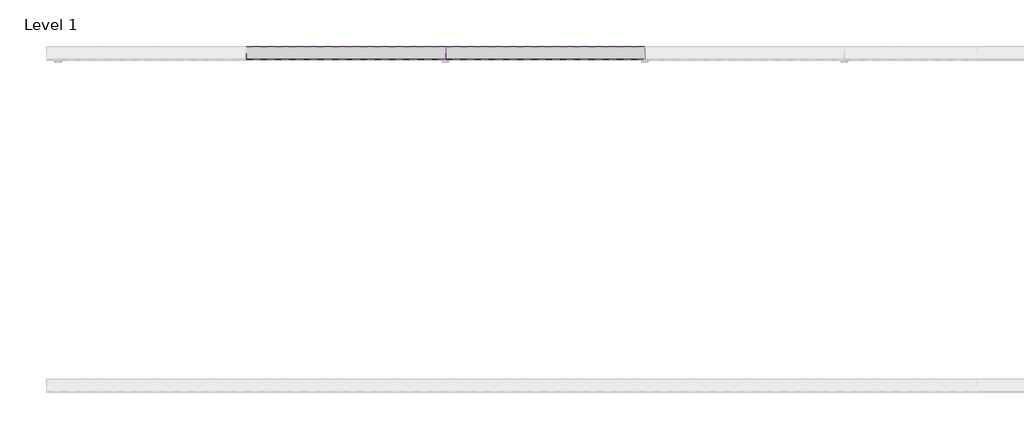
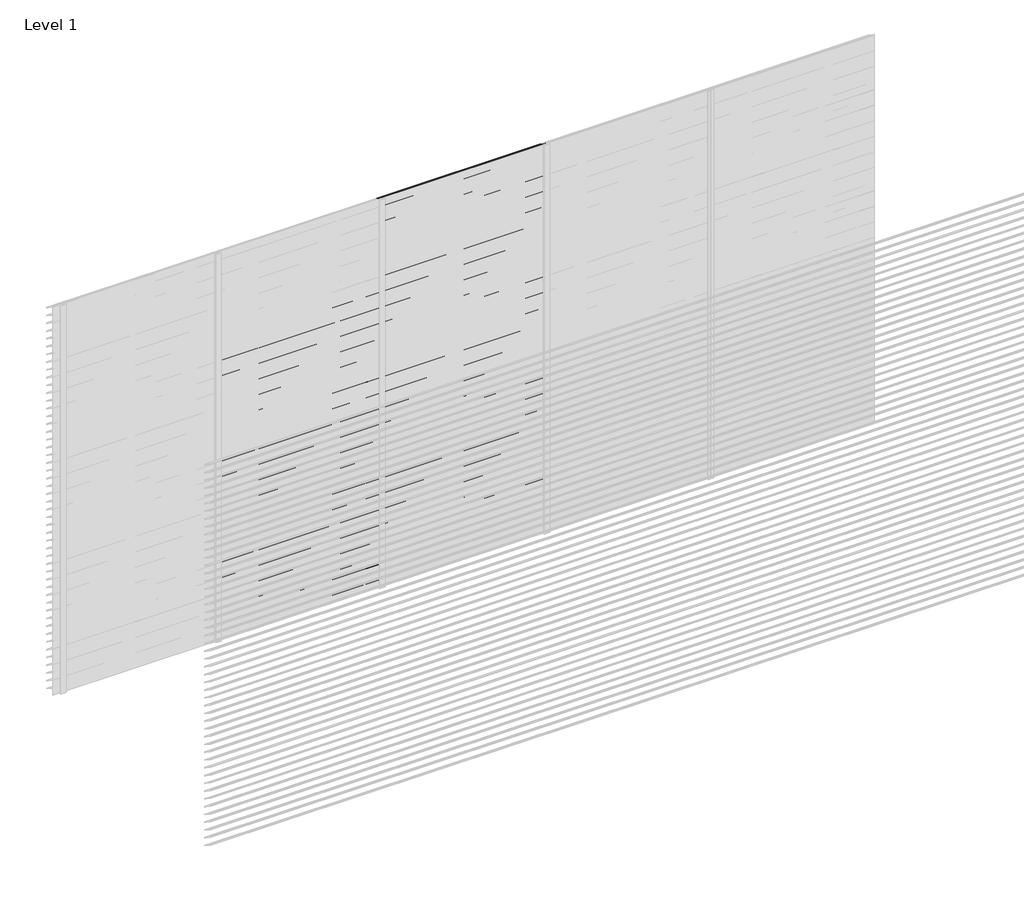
# One storey, part 73 of 153: 84 proxies.
"""IFC4 building model written with IfcOpenShell, lengths in millimetres."""

import ifcopenshell
import ifcopenshell.guid

model = None  # the IFC model being written
_history = None  # IfcOwnerHistory: only IFC2X3 demands one
_inside = {}  # id of a spatial element -> (the spatial element, [elements in it])
_under = {}  # id of a project, library or spatial element -> (it, [spatial elements below it])
_declared = {}  # id of a project -> (the project, [libraries it declares])
_typed = {}  # id of a type object -> (the type object, [elements of that type])
_made_of = {}  # id of a material, layer set ... -> (it, [elements and type objects made of it])


def new_model(schema):
    """Start an empty IFC model of exactly this schema.

    Asked for "IFC4X3", IfcOpenShell would pick the latest addendum, in which some entities
    have other attributes; the version numbers below select the first issue.
    IFC2X3 requires an IfcOwnerHistory on every rooted entity: one is made here for all.
    """
    global model, _history
    if schema == "IFC4X3":
        model = ifcopenshell.file(schema_version=(4, 3, 0, 0))
    else:
        model = ifcopenshell.file(schema=schema)
    _inside.clear()
    _under.clear()
    _declared.clear()
    _typed.clear()
    _made_of.clear()
    _history = None
    if model.schema == "IFC2X3":
        org = make("IfcOrganization", Name="unknown")
        user = make(
            "IfcPersonAndOrganization",
            ThePerson=make("IfcPerson", FamilyName="unknown"),
            TheOrganization=org,
        )
        app = make(
            "IfcApplication",
            ApplicationDeveloper=org,
            Version="unknown",
            ApplicationFullName="unknown",
            ApplicationIdentifier="unknown",
        )
        _history = make(
            "IfcOwnerHistory",
            OwningUser=user,
            OwningApplication=app,
            ChangeAction="ADDED",
            CreationDate=0,
        )
    return model


def make(cls, **values):
    """One entity of the class cls with the attributes given. An attribute that is None is left unset."""
    return model.create_entity(
        cls, **{name: value for name, value in values.items() if value is not None}
    )


def rooted(cls, **values):
    """An entity with a GlobalId (a new one), such as an element, a storey or a relation."""
    return make(cls, GlobalId=ifcopenshell.guid.new(), OwnerHistory=_history, **values)


def si_unit(unit_type, name, prefix=None):
    """IfcSIUnit, for example si_unit("LENGTHUNIT", "METRE", prefix="MILLI")."""
    return make("IfcSIUnit", UnitType=unit_type, Prefix=prefix, Name=name)


def assignment(units):
    """IfcUnitAssignment: the units of a project."""
    return None if units is None else make("IfcUnitAssignment", Units=units)


def point(xyz):
    """IfcCartesianPoint."""
    return None if xyz is None else make("IfcCartesianPoint", Coordinates=xyz)


def direction(xyz):
    """IfcDirection."""
    return None if xyz is None else make("IfcDirection", DirectionRatios=xyz)


def frame(location, z_axis=None, x_axis=None):
    """IfcAxis2Placement3D, a coordinate frame: its origin and axes. An axis left out is left unset."""
    return make(
        "IfcAxis2Placement3D",
        Location=point(location),
        Axis=direction(z_axis),
        RefDirection=direction(x_axis),
    )


def origin():
    """The frame at (0, 0, 0) with its axes left unset."""
    return frame((0.0, 0.0, 0.0))


def place(relative_to, where):
    """IfcLocalPlacement: puts the frame where relative to a parent placement (None: the world)."""
    return make(
        "IfcLocalPlacement", PlacementRelTo=relative_to, RelativePlacement=where
    )


def context(
    kind, dimensions, precision=None, world=None, true_north=None, identifier=None
):
    """IfcGeometricRepresentationContext, for example the 3D "Model" context."""
    return make(
        "IfcGeometricRepresentationContext",
        ContextIdentifier=identifier,
        ContextType=kind,
        CoordinateSpaceDimension=dimensions,
        Precision=precision,
        WorldCoordinateSystem=world,
        TrueNorth=true_north,
    )


def project(units=None, contexts=None):
    """IfcProject with its units and contexts."""
    return rooted(
        "IfcProject",
        Name="project",
        RepresentationContexts=contexts,
        UnitsInContext=assignment(units),
    )


def spatial(cls, under=None, at=None, **own):
    """A site, building, storey or space (cls), placed at a placement, below another one or the project."""
    s = rooted(cls, ObjectPlacement=at, **own)
    if under is not None:
        _under.setdefault(under.id(), (under, []))[1].append(s)
    return s


def polyline(points):
    """IfcPolyline through the points."""
    return make("IfcPolyline", Points=[point(p) for p in points])


def outline(outer, holes=None, kind="AREA"):
    """IfcArbitraryClosedProfileDef: a profile drawn as a closed curve; with holes, ...WithVoids."""
    if holes is None:
        return make("IfcArbitraryClosedProfileDef", ProfileType=kind, OuterCurve=outer)
    return make(
        "IfcArbitraryProfileDefWithVoids",
        ProfileType=kind,
        OuterCurve=outer,
        InnerCurves=holes,
    )


def extrude(swept, where, along, depth):
    """IfcExtrudedAreaSolid: the profile swept, set in the frame where, extruded along a direction by depth."""
    return make(
        "IfcExtrudedAreaSolid",
        SweptArea=swept,
        Position=where,
        ExtrudedDirection=direction(along),
        Depth=depth,
    )


def shape(context_of_items, identifier, shape_type, items):
    """IfcShapeRepresentation: the items that make up one representation, for example the "Body"."""
    return make(
        "IfcShapeRepresentation",
        ContextOfItems=context_of_items,
        RepresentationIdentifier=identifier,
        RepresentationType=shape_type,
        Items=items,
    )


def made_of(thing, what):
    """Note that an element or type object is made of a material, layer set ...; save() writes the relation."""
    if what is not None:
        _made_of.setdefault(what.id(), (what, []))[1].append(thing)
    return thing


def element(
    cls,
    number,
    at=None,
    inside=None,
    cuts=None,
    type_object=None,
    material=None,
    context=None,
    identifier="Body",
    shape_type=None,
    held_by="IfcProductDefinitionShape",
    body=None,
    shapes=None,
    **own,
):
    """One element of the class cls, such as IfcWall. Its Tag is "e" and its number.

    at: its placement. inside: the storey or other place that contains it. cuts: it is an
    opening in that element (IfcRelVoidsElement). A single representation is given by context,
    identifier, shape_type and body (its items); several are given by shapes. held_by: the class
    of the entity that holds the representations. save() writes the other relations.
    """
    e = rooted(cls, Tag="e%d" % number, ObjectPlacement=at, **own)
    if body is not None:
        shapes = [shape(context, identifier, shape_type, body)]
    if shapes is not None:
        e.Representation = make(held_by, Representations=shapes)
    if inside is not None:
        _inside.setdefault(inside.id(), (inside, []))[1].append(e)
    if cuts is not None:
        rooted(
            "IfcRelVoidsElement", RelatingBuildingElement=cuts, RelatedOpeningElement=e
        )
    if type_object is not None:
        _typed.setdefault(type_object.id(), (type_object, []))[1].append(e)
    return made_of(e, material)


def aggregate(whole, parts):
    """IfcRelAggregates: a whole, such as a stair, and the parts it consists of."""
    return rooted("IfcRelAggregates", RelatingObject=whole, RelatedObjects=parts)


def save(model, path):
    """Write the relations noted so far, then the file.

    IfcRelAggregates (storeys below a building ...), IfcRelContainedInSpatialStructure (elements
    in a storey), IfcRelDefinesByType, IfcRelAssociatesMaterial and IfcRelDeclares: one each for
    every whole, place, type object, material and project.
    """
    for whole, parts in _under.values():
        aggregate(whole, parts)
    for where, things in _inside.values():
        rooted(
            "IfcRelContainedInSpatialStructure",
            RelatedElements=things,
            RelatingStructure=where,
        )
    for kind, things in _typed.values():
        rooted("IfcRelDefinesByType", RelatedObjects=things, RelatingType=kind)
    for what, things in _made_of.values():
        rooted("IfcRelAssociatesMaterial", RelatedObjects=things, RelatingMaterial=what)
    for by, libraries in _declared.values():
        rooted("IfcRelDeclares", RelatingContext=by, RelatedDefinitions=libraries)
    model.write(path)


model = new_model("IFC4")

# Units and contexts
model_context = context("Model", 3, world=origin())
ifc_project = project(units=[si_unit("LENGTHUNIT", "METRE", prefix="MILLI")], contexts=[model_context])

# Site, building, storey
site = spatial("IfcSite", under=ifc_project)
building = spatial("IfcBuilding", under=site)
storey = spatial("IfcBuildingStorey", under=building, Name="Level 1", Elevation=0.0)

# Proxies
placement = place(None, origin())
element("IfcBuildingElementProxy", 1, Name="Wall Sweeps", at=placement, inside=storey, context=model_context, shape_type="SweptSolid", body=[
    extrude(outline(polyline([(44061.0540136, 2286.0), (44061.0540136, 2280.0), (44059.8040136, 2280.7216933), (44059.8040136, 2285.2538091), (43983.0540136, 2333.9915103), (43983.0540136, 2340.0), (43984.3040136, 2340.0), (43984.3040136, 2334.7377012), (44061.0540136, 2286.0)])), frame((1666.6208099, 0.0, 0.0), z_axis=(1.0, 0.0, 0.0), x_axis=(0.0, 1.0, 0.0)), (0.0, 0.0, 1.0), 1199.9999999),
])
element("IfcBuildingElementProxy", 2, Name="Wall Sweeps", at=placement, inside=storey, context=model_context, shape_type="SweptSolid", body=[
    extrude(outline(polyline([(44061.0540136, 2226.0), (44061.0540136, 2220.0), (44059.8040136, 2220.7216933), (44059.8040136, 2225.2538091), (43983.0540136, 2273.9915103), (43983.0540136, 2280.0), (43984.3040136, 2280.0), (43984.3040136, 2274.7377012), (44061.0540136, 2226.0)])), frame((1666.6208099, 0.0, 0.0), z_axis=(1.0, 0.0, 0.0), x_axis=(0.0, 1.0, 0.0)), (0.0, 0.0, 1.0), 1199.9999999),
])
element("IfcBuildingElementProxy", 3, Name="Wall Sweeps", at=placement, inside=storey, context=model_context, shape_type="SweptSolid", body=[
    extrude(outline(polyline([(44061.0540136, 2166.0), (44061.0540136, 2160.0), (44059.8040136, 2160.7216933), (44059.8040136, 2165.2538091), (43983.0540136, 2213.9915103), (43983.0540136, 2220.0), (43984.3040136, 2220.0), (43984.3040136, 2214.7377012), (44061.0540136, 2166.0)])), frame((1666.6208099, 0.0, 0.0), z_axis=(1.0, 0.0, 0.0), x_axis=(0.0, 1.0, 0.0)), (0.0, 0.0, 1.0), 1199.9999999),
])
element("IfcBuildingElementProxy", 4, Name="Wall Sweeps", at=placement, inside=storey, context=model_context, shape_type="SweptSolid", body=[
    extrude(outline(polyline([(44061.0540136, 2106.0), (44061.0540136, 2100.0), (44059.8040136, 2100.7216933), (44059.8040136, 2105.2538091), (43983.0540136, 2153.9915103), (43983.0540136, 2160.0), (43984.3040136, 2160.0), (43984.3040136, 2154.7377012), (44061.0540136, 2106.0)])), frame((1666.6208099, 0.0, 0.0), z_axis=(1.0, 0.0, 0.0), x_axis=(0.0, 1.0, 0.0)), (0.0, 0.0, 1.0), 1199.9999999),
])
element("IfcBuildingElementProxy", 5, Name="Wall Sweeps", at=placement, inside=storey, context=model_context, shape_type="SweptSolid", body=[
    extrude(outline(polyline([(44061.0540136, 2046.0), (44061.0540136, 2040.0), (44059.8040136, 2040.7216933), (44059.8040136, 2045.2538091), (43983.0540136, 2093.9915103), (43983.0540136, 2100.0), (43984.3040136, 2100.0), (43984.3040136, 2094.7377012), (44061.0540136, 2046.0)])), frame((1666.6208099, 0.0, 0.0), z_axis=(1.0, 0.0, 0.0), x_axis=(0.0, 1.0, 0.0)), (0.0, 0.0, 1.0), 1199.9999999),
])
element("IfcBuildingElementProxy", 6, Name="Wall Sweeps", at=placement, inside=storey, context=model_context, shape_type="SweptSolid", body=[
    extrude(outline(polyline([(44061.0540136, 1986.0), (44061.0540136, 1980.0), (44059.8040136, 1980.7216933), (44059.8040136, 1985.2538091), (43983.0540136, 2033.9915103), (43983.0540136, 2040.0), (43984.3040136, 2040.0), (43984.3040136, 2034.7377012), (44061.0540136, 1986.0)])), frame((1666.6208099, 0.0, 0.0), z_axis=(1.0, 0.0, 0.0), x_axis=(0.0, 1.0, 0.0)), (0.0, 0.0, 1.0), 1199.9999999),
])
element("IfcBuildingElementProxy", 7, Name="Wall Sweeps", at=placement, inside=storey, context=model_context, shape_type="SweptSolid", body=[
    extrude(outline(polyline([(44061.0540136, 1926.0), (44061.0540136, 1920.0), (44059.8040136, 1920.7216933), (44059.8040136, 1925.2538091), (43983.0540136, 1973.9915103), (43983.0540136, 1980.0), (43984.3040136, 1980.0), (43984.3040136, 1974.7377012), (44061.0540136, 1926.0)])), frame((1666.6208099, 0.0, 0.0), z_axis=(1.0, 0.0, 0.0), x_axis=(0.0, 1.0, 0.0)), (0.0, 0.0, 1.0), 1199.9999999),
])
element("IfcBuildingElementProxy", 8, Name="Wall Sweeps", at=placement, inside=storey, context=model_context, shape_type="SweptSolid", body=[
    extrude(outline(polyline([(44061.0540136, 1866.0), (44061.0540136, 1860.0), (44059.8040136, 1860.7216933), (44059.8040136, 1865.2538091), (43983.0540136, 1913.9915103), (43983.0540136, 1920.0), (43984.3040136, 1920.0), (43984.3040136, 1914.7377012), (44061.0540136, 1866.0)])), frame((1666.6208099, 0.0, 0.0), z_axis=(1.0, 0.0, 0.0), x_axis=(0.0, 1.0, 0.0)), (0.0, 0.0, 1.0), 1199.9999999),
])
element("IfcBuildingElementProxy", 9, Name="Wall Sweeps", at=placement, inside=storey, context=model_context, shape_type="SweptSolid", body=[
    extrude(outline(polyline([(44061.0540136, 1806.0), (44061.0540136, 1800.0), (44059.8040136, 1800.7216933), (44059.8040136, 1805.2538091), (43983.0540136, 1853.9915103), (43983.0540136, 1860.0), (43984.3040136, 1860.0), (43984.3040136, 1854.7377012), (44061.0540136, 1806.0)])), frame((1666.6208099, 0.0, 0.0), z_axis=(1.0, 0.0, 0.0), x_axis=(0.0, 1.0, 0.0)), (0.0, 0.0, 1.0), 1199.9999999),
])
element("IfcBuildingElementProxy", 10, Name="Wall Sweeps", at=placement, inside=storey, context=model_context, shape_type="SweptSolid", body=[
    extrude(outline(polyline([(44061.0540136, 1746.0), (44061.0540136, 1740.0), (44059.8040136, 1740.7216933), (44059.8040136, 1745.2538091), (43983.0540136, 1793.9915103), (43983.0540136, 1800.0), (43984.3040136, 1800.0), (43984.3040136, 1794.7377012), (44061.0540136, 1746.0)])), frame((1666.6208099, 0.0, 0.0), z_axis=(1.0, 0.0, 0.0), x_axis=(0.0, 1.0, 0.0)), (0.0, 0.0, 1.0), 1199.9999999),
])
element("IfcBuildingElementProxy", 11, Name="Wall Sweeps", at=placement, inside=storey, context=model_context, shape_type="SweptSolid", body=[
    extrude(outline(polyline([(44061.0540136, 1686.0), (44061.0540136, 1680.0), (44059.8040136, 1680.7216933), (44059.8040136, 1685.2538091), (43983.0540136, 1733.9915103), (43983.0540136, 1740.0), (43984.3040136, 1740.0), (43984.3040136, 1734.7377012), (44061.0540136, 1686.0)])), frame((1666.6208099, 0.0, 0.0), z_axis=(1.0, 0.0, 0.0), x_axis=(0.0, 1.0, 0.0)), (0.0, 0.0, 1.0), 1199.9999999),
])
element("IfcBuildingElementProxy", 12, Name="Wall Sweeps", at=placement, inside=storey, context=model_context, shape_type="SweptSolid", body=[
    extrude(outline(polyline([(44061.0540136, 1626.0), (44061.0540136, 1620.0), (44059.8040136, 1620.7216933), (44059.8040136, 1625.2538091), (43983.0540136, 1673.9915103), (43983.0540136, 1680.0), (43984.3040136, 1680.0), (43984.3040136, 1674.7377012), (44061.0540136, 1626.0)])), frame((1666.6208099, 0.0, 0.0), z_axis=(1.0, 0.0, 0.0), x_axis=(0.0, 1.0, 0.0)), (0.0, 0.0, 1.0), 1199.9999999),
])
element("IfcBuildingElementProxy", 13, Name="Wall Sweeps", at=placement, inside=storey, context=model_context, shape_type="SweptSolid", body=[
    extrude(outline(polyline([(44061.0540136, 1566.0), (44061.0540136, 1560.0), (44059.8040136, 1560.7216933), (44059.8040136, 1565.2538091), (43983.0540136, 1613.9915103), (43983.0540136, 1620.0), (43984.3040136, 1620.0), (43984.3040136, 1614.7377012), (44061.0540136, 1566.0)])), frame((1666.6208099, 0.0, 0.0), z_axis=(1.0, 0.0, 0.0), x_axis=(0.0, 1.0, 0.0)), (0.0, 0.0, 1.0), 1199.9999999),
])
element("IfcBuildingElementProxy", 14, Name="Wall Sweeps", at=placement, inside=storey, context=model_context, shape_type="SweptSolid", body=[
    extrude(outline(polyline([(44061.0540136, 1506.0), (44061.0540136, 1500.0), (44059.8040136, 1500.7216933), (44059.8040136, 1505.2538091), (43983.0540136, 1553.9915103), (43983.0540136, 1560.0), (43984.3040136, 1560.0), (43984.3040136, 1554.7377012), (44061.0540136, 1506.0)])), frame((1666.6208099, 0.0, 0.0), z_axis=(1.0, 0.0, 0.0), x_axis=(0.0, 1.0, 0.0)), (0.0, 0.0, 1.0), 1199.9999999),
])
element("IfcBuildingElementProxy", 15, Name="Wall Sweeps", at=placement, inside=storey, context=model_context, shape_type="SweptSolid", body=[
    extrude(outline(polyline([(44061.0540136, 1446.0), (44061.0540136, 1440.0), (44059.8040136, 1440.7216933), (44059.8040136, 1445.2538091), (43983.0540136, 1493.9915103), (43983.0540136, 1500.0), (43984.3040136, 1500.0), (43984.3040136, 1494.7377012), (44061.0540136, 1446.0)])), frame((1666.6208099, 0.0, 0.0), z_axis=(1.0, 0.0, 0.0), x_axis=(0.0, 1.0, 0.0)), (0.0, 0.0, 1.0), 1199.9999999),
])
element("IfcBuildingElementProxy", 16, Name="Wall Sweeps", at=placement, inside=storey, context=model_context, shape_type="SweptSolid", body=[
    extrude(outline(polyline([(44061.0540136, 1386.0), (44061.0540136, 1380.0), (44059.8040136, 1380.7216933), (44059.8040136, 1385.2538091), (43983.0540136, 1433.9915103), (43983.0540136, 1440.0), (43984.3040136, 1440.0), (43984.3040136, 1434.7377012), (44061.0540136, 1386.0)])), frame((1666.6208099, 0.0, 0.0), z_axis=(1.0, 0.0, 0.0), x_axis=(0.0, 1.0, 0.0)), (0.0, 0.0, 1.0), 1199.9999999),
])
element("IfcBuildingElementProxy", 17, Name="Wall Sweeps", at=placement, inside=storey, context=model_context, shape_type="SweptSolid", body=[
    extrude(outline(polyline([(44061.0540136, 1326.0), (44061.0540136, 1320.0), (44059.8040136, 1320.7216933), (44059.8040136, 1325.2538091), (43983.0540136, 1373.9915103), (43983.0540136, 1380.0), (43984.3040136, 1380.0), (43984.3040136, 1374.7377012), (44061.0540136, 1326.0)])), frame((1666.6208099, 0.0, 0.0), z_axis=(1.0, 0.0, 0.0), x_axis=(0.0, 1.0, 0.0)), (0.0, 0.0, 1.0), 1199.9999999),
])
element("IfcBuildingElementProxy", 18, Name="Wall Sweeps", at=placement, inside=storey, context=model_context, shape_type="SweptSolid", body=[
    extrude(outline(polyline([(44061.0540136, 1266.0), (44061.0540136, 1260.0), (44059.8040136, 1260.7216933), (44059.8040136, 1265.2538091), (43983.0540136, 1313.9915103), (43983.0540136, 1320.0), (43984.3040136, 1320.0), (43984.3040136, 1314.7377012), (44061.0540136, 1266.0)])), frame((1666.6208099, 0.0, 0.0), z_axis=(1.0, 0.0, 0.0), x_axis=(0.0, 1.0, 0.0)), (0.0, 0.0, 1.0), 1199.9999999),
])
element("IfcBuildingElementProxy", 19, Name="Wall Sweeps", at=placement, inside=storey, context=model_context, shape_type="SweptSolid", body=[
    extrude(outline(polyline([(44061.0540136, 1206.0), (44061.0540136, 1200.0), (44059.8040136, 1200.7216933), (44059.8040136, 1205.2538091), (43983.0540136, 1253.9915103), (43983.0540136, 1260.0), (43984.3040136, 1260.0), (43984.3040136, 1254.7377012), (44061.0540136, 1206.0)])), frame((1666.6208099, 0.0, 0.0), z_axis=(1.0, 0.0, 0.0), x_axis=(0.0, 1.0, 0.0)), (0.0, 0.0, 1.0), 1199.9999999),
])
element("IfcBuildingElementProxy", 20, Name="Wall Sweeps", at=placement, inside=storey, context=model_context, shape_type="SweptSolid", body=[
    extrude(outline(polyline([(44061.0540136, 1146.0), (44061.0540136, 1140.0), (44059.8040136, 1140.7216933), (44059.8040136, 1145.2538091), (43983.0540136, 1193.9915103), (43983.0540136, 1200.0), (43984.3040136, 1200.0), (43984.3040136, 1194.7377012), (44061.0540136, 1146.0)])), frame((1666.6208099, 0.0, 0.0), z_axis=(1.0, 0.0, 0.0), x_axis=(0.0, 1.0, 0.0)), (0.0, 0.0, 1.0), 1199.9999999),
])
element("IfcBuildingElementProxy", 21, Name="Wall Sweeps", at=placement, inside=storey, context=model_context, shape_type="SweptSolid", body=[
    extrude(outline(polyline([(44061.0540136, 1086.0), (44061.0540136, 1080.0), (44059.8040136, 1080.7216933), (44059.8040136, 1085.2538091), (43983.0540136, 1133.9915103), (43983.0540136, 1140.0), (43984.3040136, 1140.0), (43984.3040136, 1134.7377012), (44061.0540136, 1086.0)])), frame((1666.6208099, 0.0, 0.0), z_axis=(1.0, 0.0, 0.0), x_axis=(0.0, 1.0, 0.0)), (0.0, 0.0, 1.0), 1199.9999999),
])
element("IfcBuildingElementProxy", 22, Name="Wall Sweeps", at=placement, inside=storey, context=model_context, shape_type="SweptSolid", body=[
    extrude(outline(polyline([(44061.0540136, 1026.0), (44061.0540136, 1020.0), (44059.8040136, 1020.7216933), (44059.8040136, 1025.2538091), (43983.0540136, 1073.9915103), (43983.0540136, 1080.0), (43984.3040136, 1080.0), (43984.3040136, 1074.7377012), (44061.0540136, 1026.0)])), frame((1666.6208099, 0.0, 0.0), z_axis=(1.0, 0.0, 0.0), x_axis=(0.0, 1.0, 0.0)), (0.0, 0.0, 1.0), 1199.9999999),
])
element("IfcBuildingElementProxy", 23, Name="Wall Sweeps", at=placement, inside=storey, context=model_context, shape_type="SweptSolid", body=[
    extrude(outline(polyline([(44061.0540136, 966.0), (44061.0540136, 960.0), (44059.8040136, 960.7216933), (44059.8040136, 965.2538091), (43983.0540136, 1013.9915103), (43983.0540136, 1020.0), (43984.3040136, 1020.0), (43984.3040136, 1014.7377012), (44061.0540136, 966.0)])), frame((1666.6208099, 0.0, 0.0), z_axis=(1.0, 0.0, 0.0), x_axis=(0.0, 1.0, 0.0)), (0.0, 0.0, 1.0), 1199.9999999),
])
element("IfcBuildingElementProxy", 24, Name="Wall Sweeps", at=placement, inside=storey, context=model_context, shape_type="SweptSolid", body=[
    extrude(outline(polyline([(44061.0540136, 906.0), (44061.0540136, 900.0), (44059.8040136, 900.7216933), (44059.8040136, 905.2538091), (43983.0540136, 953.9915103), (43983.0540136, 960.0), (43984.3040136, 960.0), (43984.3040136, 954.7377012), (44061.0540136, 906.0)])), frame((1666.6208099, 0.0, 0.0), z_axis=(1.0, 0.0, 0.0), x_axis=(0.0, 1.0, 0.0)), (0.0, 0.0, 1.0), 1199.9999999),
])
element("IfcBuildingElementProxy", 25, Name="Wall Sweeps", at=placement, inside=storey, context=model_context, shape_type="SweptSolid", body=[
    extrude(outline(polyline([(44061.0540136, 846.0), (44061.0540136, 840.0), (44059.8040136, 840.7216933), (44059.8040136, 845.2538091), (43983.0540136, 893.9915103), (43983.0540136, 900.0), (43984.3040136, 900.0), (43984.3040136, 894.7377012), (44061.0540136, 846.0)])), frame((1666.6208099, 0.0, 0.0), z_axis=(1.0, 0.0, 0.0), x_axis=(0.0, 1.0, 0.0)), (0.0, 0.0, 1.0), 1199.9999999),
])
element("IfcBuildingElementProxy", 26, Name="Wall Sweeps", at=placement, inside=storey, context=model_context, shape_type="SweptSolid", body=[
    extrude(outline(polyline([(44061.0540136, 786.0), (44061.0540136, 780.0), (44059.8040136, 780.7216933), (44059.8040136, 785.2538091), (43983.0540136, 833.9915103), (43983.0540136, 840.0), (43984.3040136, 840.0), (43984.3040136, 834.7377012), (44061.0540136, 786.0)])), frame((1666.6208099, 0.0, 0.0), z_axis=(1.0, 0.0, 0.0), x_axis=(0.0, 1.0, 0.0)), (0.0, 0.0, 1.0), 1199.9999999),
])
element("IfcBuildingElementProxy", 27, Name="Wall Sweeps", at=placement, inside=storey, context=model_context, shape_type="SweptSolid", body=[
    extrude(outline(polyline([(44061.0540136, 726.0), (44061.0540136, 720.0), (44059.8040136, 720.7216933), (44059.8040136, 725.2538091), (43983.0540136, 773.9915103), (43983.0540136, 780.0), (43984.3040136, 780.0), (43984.3040136, 774.7377012), (44061.0540136, 726.0)])), frame((1666.6208099, 0.0, 0.0), z_axis=(1.0, 0.0, 0.0), x_axis=(0.0, 1.0, 0.0)), (0.0, 0.0, 1.0), 1199.9999999),
])
element("IfcBuildingElementProxy", 28, Name="Wall Sweeps", at=placement, inside=storey, context=model_context, shape_type="SweptSolid", body=[
    extrude(outline(polyline([(44061.0540136, 666.0), (44061.0540136, 660.0), (44059.8040136, 660.7216933), (44059.8040136, 665.2538091), (43983.0540136, 713.9915103), (43983.0540136, 720.0), (43984.3040136, 720.0), (43984.3040136, 714.7377012), (44061.0540136, 666.0)])), frame((1666.6208099, 0.0, 0.0), z_axis=(1.0, 0.0, 0.0), x_axis=(0.0, 1.0, 0.0)), (0.0, 0.0, 1.0), 1199.9999999),
])
element("IfcBuildingElementProxy", 29, Name="Wall Sweeps", at=placement, inside=storey, context=model_context, shape_type="SweptSolid", body=[
    extrude(outline(polyline([(44061.0540136, 606.0), (44061.0540136, 600.0), (44059.8040136, 600.7216933), (44059.8040136, 605.2538091), (43983.0540136, 653.9915103), (43983.0540136, 660.0), (43984.3040136, 660.0), (43984.3040136, 654.7377012), (44061.0540136, 606.0)])), frame((1666.6208099, 0.0, 0.0), z_axis=(1.0, 0.0, 0.0), x_axis=(0.0, 1.0, 0.0)), (0.0, 0.0, 1.0), 1199.9999999),
])
element("IfcBuildingElementProxy", 30, Name="Wall Sweeps", at=placement, inside=storey, context=model_context, shape_type="SweptSolid", body=[
    extrude(outline(polyline([(44061.0540136, 546.0), (44061.0540136, 540.0), (44059.8040136, 540.7216933), (44059.8040136, 545.2538091), (43983.0540136, 593.9915103), (43983.0540136, 600.0), (43984.3040136, 600.0), (43984.3040136, 594.7377012), (44061.0540136, 546.0)])), frame((1666.6208099, 0.0, 0.0), z_axis=(1.0, 0.0, 0.0), x_axis=(0.0, 1.0, 0.0)), (0.0, 0.0, 1.0), 1199.9999999),
])
element("IfcBuildingElementProxy", 31, Name="Wall Sweeps", at=placement, inside=storey, context=model_context, shape_type="SweptSolid", body=[
    extrude(outline(polyline([(44061.0540136, 486.0), (44061.0540136, 480.0), (44059.8040136, 480.7216933), (44059.8040136, 485.2538091), (43983.0540136, 533.9915103), (43983.0540136, 540.0), (43984.3040136, 540.0), (43984.3040136, 534.7377012), (44061.0540136, 486.0)])), frame((1666.6208099, 0.0, 0.0), z_axis=(1.0, 0.0, 0.0), x_axis=(0.0, 1.0, 0.0)), (0.0, 0.0, 1.0), 1199.9999999),
])
element("IfcBuildingElementProxy", 32, Name="Wall Sweeps", at=placement, inside=storey, context=model_context, shape_type="SweptSolid", body=[
    extrude(outline(polyline([(44061.0540136, 426.0), (44061.0540136, 420.0), (44059.8040136, 420.7216933), (44059.8040136, 425.2538091), (43983.0540136, 473.9915103), (43983.0540136, 480.0), (43984.3040136, 480.0), (43984.3040136, 474.7377012), (44061.0540136, 426.0)])), frame((1666.6208099, 0.0, 0.0), z_axis=(1.0, 0.0, 0.0), x_axis=(0.0, 1.0, 0.0)), (0.0, 0.0, 1.0), 1199.9999999),
])
element("IfcBuildingElementProxy", 33, Name="Wall Sweeps", at=placement, inside=storey, context=model_context, shape_type="SweptSolid", body=[
    extrude(outline(polyline([(44061.0540136, 366.0), (44061.0540136, 360.0), (44059.8040136, 360.7216933), (44059.8040136, 365.2538091), (43983.0540136, 413.9915103), (43983.0540136, 420.0), (43984.3040136, 420.0), (43984.3040136, 414.7377012), (44061.0540136, 366.0)])), frame((1666.6208099, 0.0, 0.0), z_axis=(1.0, 0.0, 0.0), x_axis=(0.0, 1.0, 0.0)), (0.0, 0.0, 1.0), 1199.9999999),
])
element("IfcBuildingElementProxy", 34, Name="Wall Sweeps", at=placement, inside=storey, context=model_context, shape_type="SweptSolid", body=[
    extrude(outline(polyline([(44061.0540136, 306.0), (44061.0540136, 300.0), (44059.8040136, 300.7216933), (44059.8040136, 305.2538091), (43983.0540136, 353.9915103), (43983.0540136, 360.0), (43984.3040136, 360.0), (43984.3040136, 354.7377012), (44061.0540136, 306.0)])), frame((1666.6208099, 0.0, 0.0), z_axis=(1.0, 0.0, 0.0), x_axis=(0.0, 1.0, 0.0)), (0.0, 0.0, 1.0), 1199.9999999),
])
element("IfcBuildingElementProxy", 35, Name="Wall Sweeps", at=placement, inside=storey, context=model_context, shape_type="SweptSolid", body=[
    extrude(outline(polyline([(44061.0540136, 246.0), (44061.0540136, 240.0), (44059.8040136, 240.7216933), (44059.8040136, 245.2538091), (43983.0540136, 293.9915103), (43983.0540136, 300.0), (43984.3040136, 300.0), (43984.3040136, 294.7377012), (44061.0540136, 246.0)])), frame((1666.6208099, 0.0, 0.0), z_axis=(1.0, 0.0, 0.0), x_axis=(0.0, 1.0, 0.0)), (0.0, 0.0, 1.0), 1199.9999999),
])
element("IfcBuildingElementProxy", 36, Name="Wall Sweeps", at=placement, inside=storey, context=model_context, shape_type="SweptSolid", body=[
    extrude(outline(polyline([(44061.0540136, 186.0), (44061.0540136, 180.0), (44059.8040136, 180.7216933), (44059.8040136, 185.2538091), (43983.0540136, 233.9915103), (43983.0540136, 240.0), (43984.3040136, 240.0), (43984.3040136, 234.7377012), (44061.0540136, 186.0)])), frame((1666.6208099, 0.0, 0.0), z_axis=(1.0, 0.0, 0.0), x_axis=(0.0, 1.0, 0.0)), (0.0, 0.0, 1.0), 1199.9999999),
])
element("IfcBuildingElementProxy", 37, Name="Wall Sweeps", at=placement, inside=storey, context=model_context, shape_type="SweptSolid", body=[
    extrude(outline(polyline([(44061.0540136, 126.0), (44061.0540136, 120.0), (44059.8040136, 120.7216933), (44059.8040136, 125.2538091), (43983.0540136, 173.9915103), (43983.0540136, 180.0), (43984.3040136, 180.0), (43984.3040136, 174.7377012), (44061.0540136, 126.0)])), frame((1666.6208099, 0.0, 0.0), z_axis=(1.0, 0.0, 0.0), x_axis=(0.0, 1.0, 0.0)), (0.0, 0.0, 1.0), 1199.9999999),
])
element("IfcBuildingElementProxy", 38, Name="Wall Sweeps", at=placement, inside=storey, context=model_context, shape_type="SweptSolid", body=[
    extrude(outline(polyline([(44061.0540136, 66.0), (44061.0540136, 60.0), (44059.8040136, 60.7216933), (44059.8040136, 65.2538091), (43983.0540136, 113.9915103), (43983.0540136, 120.0), (43984.3040136, 120.0), (43984.3040136, 114.7377012), (44061.0540136, 66.0)])), frame((1666.6208099, 0.0, 0.0), z_axis=(1.0, 0.0, 0.0), x_axis=(0.0, 1.0, 0.0)), (0.0, 0.0, 1.0), 1199.9999999),
])
element("IfcBuildingElementProxy", 39, Name="Wall Sweeps", at=placement, inside=storey, context=model_context, shape_type="SweptSolid", body=[
    extrude(outline(polyline([(44061.0540136, 6.0), (44061.0540136, 0.0), (44059.8040136, 0.7216933), (44059.8040136, 5.2538091), (43983.0540136, 53.9915103), (43983.0540136, 60.0), (43984.3040136, 60.0), (43984.3040136, 54.7377012), (44061.0540136, 6.0)])), frame((1666.6208099, 0.0, 0.0), z_axis=(1.0, 0.0, 0.0), x_axis=(0.0, 1.0, 0.0)), (0.0, 0.0, 1.0), 1199.9999999),
])
element("IfcBuildingElementProxy", 40, Name="Wall Sweeps", at=placement, inside=storey, context=model_context, shape_type="SweptSolid", body=[
    extrude(outline(polyline([(44061.0540136, 2946.0), (44061.0540136, 2940.0), (44059.8040136, 2940.7216933), (44059.8040136, 2945.2538091), (43983.0540136, 2993.9915103), (43983.0540136, 3000.0), (43984.3040136, 3000.0), (43984.3040136, 2994.7377012), (44061.0540136, 2946.0)])), frame((2866.6208097, 0.0, 0.0), z_axis=(1.0, 0.0, 0.0), x_axis=(0.0, 1.0, 0.0)), (0.0, 0.0, 1.0), 1199.9999999),
])
element("IfcBuildingElementProxy", 41, Name="Wall Sweeps", at=placement, inside=storey, context=model_context, shape_type="SweptSolid", body=[
    extrude(outline(polyline([(44061.0540136, 2886.0), (44061.0540136, 2880.0), (44059.8040136, 2880.7216933), (44059.8040136, 2885.2538091), (43983.0540136, 2933.9915103), (43983.0540136, 2940.0), (43984.3040136, 2940.0), (43984.3040136, 2934.7377012), (44061.0540136, 2886.0)])), frame((2866.6208097, 0.0, 0.0), z_axis=(1.0, 0.0, 0.0), x_axis=(0.0, 1.0, 0.0)), (0.0, 0.0, 1.0), 1199.9999999),
])
element("IfcBuildingElementProxy", 42, Name="Wall Sweeps", at=placement, inside=storey, context=model_context, shape_type="SweptSolid", body=[
    extrude(outline(polyline([(44061.0540136, 2826.0), (44061.0540136, 2820.0), (44059.8040136, 2820.7216933), (44059.8040136, 2825.2538091), (43983.0540136, 2873.9915103), (43983.0540136, 2880.0), (43984.3040136, 2880.0), (43984.3040136, 2874.7377012), (44061.0540136, 2826.0)])), frame((2866.6208097, 0.0, 0.0), z_axis=(1.0, 0.0, 0.0), x_axis=(0.0, 1.0, 0.0)), (0.0, 0.0, 1.0), 1199.9999999),
])
element("IfcBuildingElementProxy", 43, Name="Wall Sweeps", at=placement, inside=storey, context=model_context, shape_type="SweptSolid", body=[
    extrude(outline(polyline([(44061.0540136, 2766.0), (44061.0540136, 2760.0), (44059.8040136, 2760.7216933), (44059.8040136, 2765.2538091), (43983.0540136, 2813.9915103), (43983.0540136, 2820.0), (43984.3040136, 2820.0), (43984.3040136, 2814.7377012), (44061.0540136, 2766.0)])), frame((2866.6208097, 0.0, 0.0), z_axis=(1.0, 0.0, 0.0), x_axis=(0.0, 1.0, 0.0)), (0.0, 0.0, 1.0), 1199.9999999),
])
element("IfcBuildingElementProxy", 44, Name="Wall Sweeps", at=placement, inside=storey, context=model_context, shape_type="SweptSolid", body=[
    extrude(outline(polyline([(44061.0540136, 2706.0), (44061.0540136, 2700.0), (44059.8040136, 2700.7216933), (44059.8040136, 2705.2538091), (43983.0540136, 2753.9915103), (43983.0540136, 2760.0), (43984.3040136, 2760.0), (43984.3040136, 2754.7377012), (44061.0540136, 2706.0)])), frame((2866.6208097, 0.0, 0.0), z_axis=(1.0, 0.0, 0.0), x_axis=(0.0, 1.0, 0.0)), (0.0, 0.0, 1.0), 1199.9999999),
])
element("IfcBuildingElementProxy", 45, Name="Wall Sweeps", at=placement, inside=storey, context=model_context, shape_type="SweptSolid", body=[
    extrude(outline(polyline([(44061.0540136, 2646.0), (44061.0540136, 2640.0), (44059.8040136, 2640.7216933), (44059.8040136, 2645.2538091), (43983.0540136, 2693.9915103), (43983.0540136, 2700.0), (43984.3040136, 2700.0), (43984.3040136, 2694.7377012), (44061.0540136, 2646.0)])), frame((2866.6208097, 0.0, 0.0), z_axis=(1.0, 0.0, 0.0), x_axis=(0.0, 1.0, 0.0)), (0.0, 0.0, 1.0), 1199.9999999),
])
element("IfcBuildingElementProxy", 46, Name="Wall Sweeps", at=placement, inside=storey, context=model_context, shape_type="SweptSolid", body=[
    extrude(outline(polyline([(44061.0540136, 2586.0), (44061.0540136, 2580.0), (44059.8040136, 2580.7216933), (44059.8040136, 2585.2538091), (43983.0540136, 2633.9915103), (43983.0540136, 2640.0), (43984.3040136, 2640.0), (43984.3040136, 2634.7377012), (44061.0540136, 2586.0)])), frame((2866.6208097, 0.0, 0.0), z_axis=(1.0, 0.0, 0.0), x_axis=(0.0, 1.0, 0.0)), (0.0, 0.0, 1.0), 1199.9999999),
])
element("IfcBuildingElementProxy", 47, Name="Wall Sweeps", at=placement, inside=storey, context=model_context, shape_type="SweptSolid", body=[
    extrude(outline(polyline([(44061.0540136, 2526.0), (44061.0540136, 2520.0), (44059.8040136, 2520.7216933), (44059.8040136, 2525.2538091), (43983.0540136, 2573.9915103), (43983.0540136, 2580.0), (43984.3040136, 2580.0), (43984.3040136, 2574.7377012), (44061.0540136, 2526.0)])), frame((2866.6208097, 0.0, 0.0), z_axis=(1.0, 0.0, 0.0), x_axis=(0.0, 1.0, 0.0)), (0.0, 0.0, 1.0), 1199.9999999),
])
element("IfcBuildingElementProxy", 48, Name="Wall Sweeps", at=placement, inside=storey, context=model_context, shape_type="SweptSolid", body=[
    extrude(outline(polyline([(44061.0540136, 2466.0), (44061.0540136, 2460.0), (44059.8040136, 2460.7216933), (44059.8040136, 2465.2538091), (43983.0540136, 2513.9915103), (43983.0540136, 2520.0), (43984.3040136, 2520.0), (43984.3040136, 2514.7377012), (44061.0540136, 2466.0)])), frame((2866.6208097, 0.0, 0.0), z_axis=(1.0, 0.0, 0.0), x_axis=(0.0, 1.0, 0.0)), (0.0, 0.0, 1.0), 1199.9999999),
])
element("IfcBuildingElementProxy", 49, Name="Wall Sweeps", at=placement, inside=storey, context=model_context, shape_type="SweptSolid", body=[
    extrude(outline(polyline([(44061.0540136, 2406.0), (44061.0540136, 2400.0), (44059.8040136, 2400.7216933), (44059.8040136, 2405.2538091), (43983.0540136, 2453.9915103), (43983.0540136, 2460.0), (43984.3040136, 2460.0), (43984.3040136, 2454.7377012), (44061.0540136, 2406.0)])), frame((2866.6208097, 0.0, 0.0), z_axis=(1.0, 0.0, 0.0), x_axis=(0.0, 1.0, 0.0)), (0.0, 0.0, 1.0), 1199.9999999),
])
element("IfcBuildingElementProxy", 50, Name="Wall Sweeps", at=placement, inside=storey, context=model_context, shape_type="SweptSolid", body=[
    extrude(outline(polyline([(44061.0540136, 2346.0), (44061.0540136, 2340.0), (44059.8040136, 2340.7216933), (44059.8040136, 2345.2538091), (43983.0540136, 2393.9915103), (43983.0540136, 2400.0), (43984.3040136, 2400.0), (43984.3040136, 2394.7377012), (44061.0540136, 2346.0)])), frame((2866.6208097, 0.0, 0.0), z_axis=(1.0, 0.0, 0.0), x_axis=(0.0, 1.0, 0.0)), (0.0, 0.0, 1.0), 1199.9999999),
])
element("IfcBuildingElementProxy", 51, Name="Wall Sweeps", at=placement, inside=storey, context=model_context, shape_type="SweptSolid", body=[
    extrude(outline(polyline([(44061.0540136, 2286.0), (44061.0540136, 2280.0), (44059.8040136, 2280.7216933), (44059.8040136, 2285.2538091), (43983.0540136, 2333.9915103), (43983.0540136, 2340.0), (43984.3040136, 2340.0), (43984.3040136, 2334.7377012), (44061.0540136, 2286.0)])), frame((2866.6208097, 0.0, 0.0), z_axis=(1.0, 0.0, 0.0), x_axis=(0.0, 1.0, 0.0)), (0.0, 0.0, 1.0), 1199.9999999),
])
element("IfcBuildingElementProxy", 52, Name="Wall Sweeps", at=placement, inside=storey, context=model_context, shape_type="SweptSolid", body=[
    extrude(outline(polyline([(44061.0540136, 2226.0), (44061.0540136, 2220.0), (44059.8040136, 2220.7216933), (44059.8040136, 2225.2538091), (43983.0540136, 2273.9915103), (43983.0540136, 2280.0), (43984.3040136, 2280.0), (43984.3040136, 2274.7377012), (44061.0540136, 2226.0)])), frame((2866.6208097, 0.0, 0.0), z_axis=(1.0, 0.0, 0.0), x_axis=(0.0, 1.0, 0.0)), (0.0, 0.0, 1.0), 1199.9999999),
])
element("IfcBuildingElementProxy", 53, Name="Wall Sweeps", at=placement, inside=storey, context=model_context, shape_type="SweptSolid", body=[
    extrude(outline(polyline([(44061.0540136, 2166.0), (44061.0540136, 2160.0), (44059.8040136, 2160.7216933), (44059.8040136, 2165.2538091), (43983.0540136, 2213.9915103), (43983.0540136, 2220.0), (43984.3040136, 2220.0), (43984.3040136, 2214.7377012), (44061.0540136, 2166.0)])), frame((2866.6208097, 0.0, 0.0), z_axis=(1.0, 0.0, 0.0), x_axis=(0.0, 1.0, 0.0)), (0.0, 0.0, 1.0), 1199.9999999),
])
element("IfcBuildingElementProxy", 54, Name="Wall Sweeps", at=placement, inside=storey, context=model_context, shape_type="SweptSolid", body=[
    extrude(outline(polyline([(44061.0540136, 2106.0), (44061.0540136, 2100.0), (44059.8040136, 2100.7216933), (44059.8040136, 2105.2538091), (43983.0540136, 2153.9915103), (43983.0540136, 2160.0), (43984.3040136, 2160.0), (43984.3040136, 2154.7377012), (44061.0540136, 2106.0)])), frame((2866.6208097, 0.0, 0.0), z_axis=(1.0, 0.0, 0.0), x_axis=(0.0, 1.0, 0.0)), (0.0, 0.0, 1.0), 1199.9999999),
])
element("IfcBuildingElementProxy", 55, Name="Wall Sweeps", at=placement, inside=storey, context=model_context, shape_type="SweptSolid", body=[
    extrude(outline(polyline([(44061.0540136, 2046.0), (44061.0540136, 2040.0), (44059.8040136, 2040.7216933), (44059.8040136, 2045.2538091), (43983.0540136, 2093.9915103), (43983.0540136, 2100.0), (43984.3040136, 2100.0), (43984.3040136, 2094.7377012), (44061.0540136, 2046.0)])), frame((2866.6208097, 0.0, 0.0), z_axis=(1.0, 0.0, 0.0), x_axis=(0.0, 1.0, 0.0)), (0.0, 0.0, 1.0), 1199.9999999),
])
element("IfcBuildingElementProxy", 56, Name="Wall Sweeps", at=placement, inside=storey, context=model_context, shape_type="SweptSolid", body=[
    extrude(outline(polyline([(44061.0540136, 1986.0), (44061.0540136, 1980.0), (44059.8040136, 1980.7216933), (44059.8040136, 1985.2538091), (43983.0540136, 2033.9915103), (43983.0540136, 2040.0), (43984.3040136, 2040.0), (43984.3040136, 2034.7377012), (44061.0540136, 1986.0)])), frame((2866.6208097, 0.0, 0.0), z_axis=(1.0, 0.0, 0.0), x_axis=(0.0, 1.0, 0.0)), (0.0, 0.0, 1.0), 1199.9999999),
])
element("IfcBuildingElementProxy", 57, Name="Wall Sweeps", at=placement, inside=storey, context=model_context, shape_type="SweptSolid", body=[
    extrude(outline(polyline([(44061.0540136, 1926.0), (44061.0540136, 1920.0), (44059.8040136, 1920.7216933), (44059.8040136, 1925.2538091), (43983.0540136, 1973.9915103), (43983.0540136, 1980.0), (43984.3040136, 1980.0), (43984.3040136, 1974.7377012), (44061.0540136, 1926.0)])), frame((2866.6208097, 0.0, 0.0), z_axis=(1.0, 0.0, 0.0), x_axis=(0.0, 1.0, 0.0)), (0.0, 0.0, 1.0), 1199.9999999),
])
element("IfcBuildingElementProxy", 58, Name="Wall Sweeps", at=placement, inside=storey, context=model_context, shape_type="SweptSolid", body=[
    extrude(outline(polyline([(44061.0540136, 1866.0), (44061.0540136, 1860.0), (44059.8040136, 1860.7216933), (44059.8040136, 1865.2538091), (43983.0540136, 1913.9915103), (43983.0540136, 1920.0), (43984.3040136, 1920.0), (43984.3040136, 1914.7377012), (44061.0540136, 1866.0)])), frame((2866.6208097, 0.0, 0.0), z_axis=(1.0, 0.0, 0.0), x_axis=(0.0, 1.0, 0.0)), (0.0, 0.0, 1.0), 1199.9999999),
])
element("IfcBuildingElementProxy", 59, Name="Wall Sweeps", at=placement, inside=storey, context=model_context, shape_type="SweptSolid", body=[
    extrude(outline(polyline([(44061.0540136, 1806.0), (44061.0540136, 1800.0), (44059.8040136, 1800.7216933), (44059.8040136, 1805.2538091), (43983.0540136, 1853.9915103), (43983.0540136, 1860.0), (43984.3040136, 1860.0), (43984.3040136, 1854.7377012), (44061.0540136, 1806.0)])), frame((2866.6208097, 0.0, 0.0), z_axis=(1.0, 0.0, 0.0), x_axis=(0.0, 1.0, 0.0)), (0.0, 0.0, 1.0), 1199.9999999),
])
element("IfcBuildingElementProxy", 60, Name="Wall Sweeps", at=placement, inside=storey, context=model_context, shape_type="SweptSolid", body=[
    extrude(outline(polyline([(44061.0540136, 1746.0), (44061.0540136, 1740.0), (44059.8040136, 1740.7216933), (44059.8040136, 1745.2538091), (43983.0540136, 1793.9915103), (43983.0540136, 1800.0), (43984.3040136, 1800.0), (43984.3040136, 1794.7377012), (44061.0540136, 1746.0)])), frame((2866.6208097, 0.0, 0.0), z_axis=(1.0, 0.0, 0.0), x_axis=(0.0, 1.0, 0.0)), (0.0, 0.0, 1.0), 1199.9999999),
])
element("IfcBuildingElementProxy", 61, Name="Wall Sweeps", at=placement, inside=storey, context=model_context, shape_type="SweptSolid", body=[
    extrude(outline(polyline([(44061.0540136, 1686.0), (44061.0540136, 1680.0), (44059.8040136, 1680.7216933), (44059.8040136, 1685.2538091), (43983.0540136, 1733.9915103), (43983.0540136, 1740.0), (43984.3040136, 1740.0), (43984.3040136, 1734.7377012), (44061.0540136, 1686.0)])), frame((2866.6208097, 0.0, 0.0), z_axis=(1.0, 0.0, 0.0), x_axis=(0.0, 1.0, 0.0)), (0.0, 0.0, 1.0), 1199.9999999),
])
element("IfcBuildingElementProxy", 62, Name="Wall Sweeps", at=placement, inside=storey, context=model_context, shape_type="SweptSolid", body=[
    extrude(outline(polyline([(44061.0540136, 1626.0), (44061.0540136, 1620.0), (44059.8040136, 1620.7216933), (44059.8040136, 1625.2538091), (43983.0540136, 1673.9915103), (43983.0540136, 1680.0), (43984.3040136, 1680.0), (43984.3040136, 1674.7377012), (44061.0540136, 1626.0)])), frame((2866.6208097, 0.0, 0.0), z_axis=(1.0, 0.0, 0.0), x_axis=(0.0, 1.0, 0.0)), (0.0, 0.0, 1.0), 1199.9999999),
])
element("IfcBuildingElementProxy", 63, Name="Wall Sweeps", at=placement, inside=storey, context=model_context, shape_type="SweptSolid", body=[
    extrude(outline(polyline([(44061.0540136, 1566.0), (44061.0540136, 1560.0), (44059.8040136, 1560.7216933), (44059.8040136, 1565.2538091), (43983.0540136, 1613.9915103), (43983.0540136, 1620.0), (43984.3040136, 1620.0), (43984.3040136, 1614.7377012), (44061.0540136, 1566.0)])), frame((2866.6208097, 0.0, 0.0), z_axis=(1.0, 0.0, 0.0), x_axis=(0.0, 1.0, 0.0)), (0.0, 0.0, 1.0), 1199.9999999),
])
element("IfcBuildingElementProxy", 64, Name="Wall Sweeps", at=placement, inside=storey, context=model_context, shape_type="SweptSolid", body=[
    extrude(outline(polyline([(44061.0540136, 1506.0), (44061.0540136, 1500.0), (44059.8040136, 1500.7216933), (44059.8040136, 1505.2538091), (43983.0540136, 1553.9915103), (43983.0540136, 1560.0), (43984.3040136, 1560.0), (43984.3040136, 1554.7377012), (44061.0540136, 1506.0)])), frame((2866.6208097, 0.0, 0.0), z_axis=(1.0, 0.0, 0.0), x_axis=(0.0, 1.0, 0.0)), (0.0, 0.0, 1.0), 1199.9999999),
])
element("IfcBuildingElementProxy", 65, Name="Wall Sweeps", at=placement, inside=storey, context=model_context, shape_type="SweptSolid", body=[
    extrude(outline(polyline([(44061.0540136, 1446.0), (44061.0540136, 1440.0), (44059.8040136, 1440.7216933), (44059.8040136, 1445.2538091), (43983.0540136, 1493.9915103), (43983.0540136, 1500.0), (43984.3040136, 1500.0), (43984.3040136, 1494.7377012), (44061.0540136, 1446.0)])), frame((2866.6208097, 0.0, 0.0), z_axis=(1.0, 0.0, 0.0), x_axis=(0.0, 1.0, 0.0)), (0.0, 0.0, 1.0), 1199.9999999),
])
element("IfcBuildingElementProxy", 66, Name="Wall Sweeps", at=placement, inside=storey, context=model_context, shape_type="SweptSolid", body=[
    extrude(outline(polyline([(44061.0540136, 1386.0), (44061.0540136, 1380.0), (44059.8040136, 1380.7216933), (44059.8040136, 1385.2538091), (43983.0540136, 1433.9915103), (43983.0540136, 1440.0), (43984.3040136, 1440.0), (43984.3040136, 1434.7377012), (44061.0540136, 1386.0)])), frame((2866.6208097, 0.0, 0.0), z_axis=(1.0, 0.0, 0.0), x_axis=(0.0, 1.0, 0.0)), (0.0, 0.0, 1.0), 1199.9999999),
])
element("IfcBuildingElementProxy", 67, Name="Wall Sweeps", at=placement, inside=storey, context=model_context, shape_type="SweptSolid", body=[
    extrude(outline(polyline([(44061.0540136, 1326.0), (44061.0540136, 1320.0), (44059.8040136, 1320.7216933), (44059.8040136, 1325.2538091), (43983.0540136, 1373.9915103), (43983.0540136, 1380.0), (43984.3040136, 1380.0), (43984.3040136, 1374.7377012), (44061.0540136, 1326.0)])), frame((2866.6208097, 0.0, 0.0), z_axis=(1.0, 0.0, 0.0), x_axis=(0.0, 1.0, 0.0)), (0.0, 0.0, 1.0), 1199.9999999),
])
element("IfcBuildingElementProxy", 68, Name="Wall Sweeps", at=placement, inside=storey, context=model_context, shape_type="SweptSolid", body=[
    extrude(outline(polyline([(44061.0540136, 1266.0), (44061.0540136, 1260.0), (44059.8040136, 1260.7216933), (44059.8040136, 1265.2538091), (43983.0540136, 1313.9915103), (43983.0540136, 1320.0), (43984.3040136, 1320.0), (43984.3040136, 1314.7377012), (44061.0540136, 1266.0)])), frame((2866.6208097, 0.0, 0.0), z_axis=(1.0, 0.0, 0.0), x_axis=(0.0, 1.0, 0.0)), (0.0, 0.0, 1.0), 1199.9999999),
])
element("IfcBuildingElementProxy", 69, Name="Wall Sweeps", at=placement, inside=storey, context=model_context, shape_type="SweptSolid", body=[
    extrude(outline(polyline([(44061.0540136, 1206.0), (44061.0540136, 1200.0), (44059.8040136, 1200.7216933), (44059.8040136, 1205.2538091), (43983.0540136, 1253.9915103), (43983.0540136, 1260.0), (43984.3040136, 1260.0), (43984.3040136, 1254.7377012), (44061.0540136, 1206.0)])), frame((2866.6208097, 0.0, 0.0), z_axis=(1.0, 0.0, 0.0), x_axis=(0.0, 1.0, 0.0)), (0.0, 0.0, 1.0), 1199.9999999),
])
element("IfcBuildingElementProxy", 70, Name="Wall Sweeps", at=placement, inside=storey, context=model_context, shape_type="SweptSolid", body=[
    extrude(outline(polyline([(44061.0540136, 1146.0), (44061.0540136, 1140.0), (44059.8040136, 1140.7216933), (44059.8040136, 1145.2538091), (43983.0540136, 1193.9915103), (43983.0540136, 1200.0), (43984.3040136, 1200.0), (43984.3040136, 1194.7377012), (44061.0540136, 1146.0)])), frame((2866.6208097, 0.0, 0.0), z_axis=(1.0, 0.0, 0.0), x_axis=(0.0, 1.0, 0.0)), (0.0, 0.0, 1.0), 1199.9999999),
])
element("IfcBuildingElementProxy", 71, Name="Wall Sweeps", at=placement, inside=storey, context=model_context, shape_type="SweptSolid", body=[
    extrude(outline(polyline([(44061.0540136, 1086.0), (44061.0540136, 1080.0), (44059.8040136, 1080.7216933), (44059.8040136, 1085.2538091), (43983.0540136, 1133.9915103), (43983.0540136, 1140.0), (43984.3040136, 1140.0), (43984.3040136, 1134.7377012), (44061.0540136, 1086.0)])), frame((2866.6208097, 0.0, 0.0), z_axis=(1.0, 0.0, 0.0), x_axis=(0.0, 1.0, 0.0)), (0.0, 0.0, 1.0), 1199.9999999),
])
element("IfcBuildingElementProxy", 72, Name="Wall Sweeps", at=placement, inside=storey, context=model_context, shape_type="SweptSolid", body=[
    extrude(outline(polyline([(44061.0540136, 1026.0), (44061.0540136, 1020.0), (44059.8040136, 1020.7216933), (44059.8040136, 1025.2538091), (43983.0540136, 1073.9915103), (43983.0540136, 1080.0), (43984.3040136, 1080.0), (43984.3040136, 1074.7377012), (44061.0540136, 1026.0)])), frame((2866.6208097, 0.0, 0.0), z_axis=(1.0, 0.0, 0.0), x_axis=(0.0, 1.0, 0.0)), (0.0, 0.0, 1.0), 1199.9999999),
])
element("IfcBuildingElementProxy", 73, Name="Wall Sweeps", at=placement, inside=storey, context=model_context, shape_type="SweptSolid", body=[
    extrude(outline(polyline([(44061.0540136, 966.0), (44061.0540136, 960.0), (44059.8040136, 960.7216933), (44059.8040136, 965.2538091), (43983.0540136, 1013.9915103), (43983.0540136, 1020.0), (43984.3040136, 1020.0), (43984.3040136, 1014.7377012), (44061.0540136, 966.0)])), frame((2866.6208097, 0.0, 0.0), z_axis=(1.0, 0.0, 0.0), x_axis=(0.0, 1.0, 0.0)), (0.0, 0.0, 1.0), 1199.9999999),
])
element("IfcBuildingElementProxy", 74, Name="Wall Sweeps", at=placement, inside=storey, context=model_context, shape_type="SweptSolid", body=[
    extrude(outline(polyline([(44061.0540136, 906.0), (44061.0540136, 900.0), (44059.8040136, 900.7216933), (44059.8040136, 905.2538091), (43983.0540136, 953.9915103), (43983.0540136, 960.0), (43984.3040136, 960.0), (43984.3040136, 954.7377012), (44061.0540136, 906.0)])), frame((2866.6208097, 0.0, 0.0), z_axis=(1.0, 0.0, 0.0), x_axis=(0.0, 1.0, 0.0)), (0.0, 0.0, 1.0), 1199.9999999),
])
element("IfcBuildingElementProxy", 75, Name="Wall Sweeps", at=placement, inside=storey, context=model_context, shape_type="SweptSolid", body=[
    extrude(outline(polyline([(44061.0540136, 846.0), (44061.0540136, 840.0), (44059.8040136, 840.7216933), (44059.8040136, 845.2538091), (43983.0540136, 893.9915103), (43983.0540136, 900.0), (43984.3040136, 900.0), (43984.3040136, 894.7377012), (44061.0540136, 846.0)])), frame((2866.6208097, 0.0, 0.0), z_axis=(1.0, 0.0, 0.0), x_axis=(0.0, 1.0, 0.0)), (0.0, 0.0, 1.0), 1199.9999999),
])
element("IfcBuildingElementProxy", 76, Name="Wall Sweeps", at=placement, inside=storey, context=model_context, shape_type="SweptSolid", body=[
    extrude(outline(polyline([(44061.0540136, 786.0), (44061.0540136, 780.0), (44059.8040136, 780.7216933), (44059.8040136, 785.2538091), (43983.0540136, 833.9915103), (43983.0540136, 840.0), (43984.3040136, 840.0), (43984.3040136, 834.7377012), (44061.0540136, 786.0)])), frame((2866.6208097, 0.0, 0.0), z_axis=(1.0, 0.0, 0.0), x_axis=(0.0, 1.0, 0.0)), (0.0, 0.0, 1.0), 1199.9999999),
])
element("IfcBuildingElementProxy", 77, Name="Wall Sweeps", at=placement, inside=storey, context=model_context, shape_type="SweptSolid", body=[
    extrude(outline(polyline([(44061.0540136, 726.0), (44061.0540136, 720.0), (44059.8040136, 720.7216933), (44059.8040136, 725.2538091), (43983.0540136, 773.9915103), (43983.0540136, 780.0), (43984.3040136, 780.0), (43984.3040136, 774.7377012), (44061.0540136, 726.0)])), frame((2866.6208097, 0.0, 0.0), z_axis=(1.0, 0.0, 0.0), x_axis=(0.0, 1.0, 0.0)), (0.0, 0.0, 1.0), 1199.9999999),
])
element("IfcBuildingElementProxy", 78, Name="Wall Sweeps", at=placement, inside=storey, context=model_context, shape_type="SweptSolid", body=[
    extrude(outline(polyline([(44061.0540136, 666.0), (44061.0540136, 660.0), (44059.8040136, 660.7216933), (44059.8040136, 665.2538091), (43983.0540136, 713.9915103), (43983.0540136, 720.0), (43984.3040136, 720.0), (43984.3040136, 714.7377012), (44061.0540136, 666.0)])), frame((2866.6208097, 0.0, 0.0), z_axis=(1.0, 0.0, 0.0), x_axis=(0.0, 1.0, 0.0)), (0.0, 0.0, 1.0), 1199.9999999),
])
element("IfcBuildingElementProxy", 79, Name="Wall Sweeps", at=placement, inside=storey, context=model_context, shape_type="SweptSolid", body=[
    extrude(outline(polyline([(44061.0540136, 606.0), (44061.0540136, 600.0), (44059.8040136, 600.7216933), (44059.8040136, 605.2538091), (43983.0540136, 653.9915103), (43983.0540136, 660.0), (43984.3040136, 660.0), (43984.3040136, 654.7377012), (44061.0540136, 606.0)])), frame((2866.6208097, 0.0, 0.0), z_axis=(1.0, 0.0, 0.0), x_axis=(0.0, 1.0, 0.0)), (0.0, 0.0, 1.0), 1199.9999999),
])
element("IfcBuildingElementProxy", 80, Name="Wall Sweeps", at=placement, inside=storey, context=model_context, shape_type="SweptSolid", body=[
    extrude(outline(polyline([(44061.0540136, 546.0), (44061.0540136, 540.0), (44059.8040136, 540.7216933), (44059.8040136, 545.2538091), (43983.0540136, 593.9915103), (43983.0540136, 600.0), (43984.3040136, 600.0), (43984.3040136, 594.7377012), (44061.0540136, 546.0)])), frame((2866.6208097, 0.0, 0.0), z_axis=(1.0, 0.0, 0.0), x_axis=(0.0, 1.0, 0.0)), (0.0, 0.0, 1.0), 1199.9999999),
])
element("IfcBuildingElementProxy", 81, Name="Wall Sweeps", at=placement, inside=storey, context=model_context, shape_type="SweptSolid", body=[
    extrude(outline(polyline([(44061.0540136, 486.0), (44061.0540136, 480.0), (44059.8040136, 480.7216933), (44059.8040136, 485.2538091), (43983.0540136, 533.9915103), (43983.0540136, 540.0), (43984.3040136, 540.0), (43984.3040136, 534.7377012), (44061.0540136, 486.0)])), frame((2866.6208097, 0.0, 0.0), z_axis=(1.0, 0.0, 0.0), x_axis=(0.0, 1.0, 0.0)), (0.0, 0.0, 1.0), 1199.9999999),
])
element("IfcBuildingElementProxy", 82, Name="Wall Sweeps", at=placement, inside=storey, context=model_context, shape_type="SweptSolid", body=[
    extrude(outline(polyline([(44061.0540136, 426.0), (44061.0540136, 420.0), (44059.8040136, 420.7216933), (44059.8040136, 425.2538091), (43983.0540136, 473.9915103), (43983.0540136, 480.0), (43984.3040136, 480.0), (43984.3040136, 474.7377012), (44061.0540136, 426.0)])), frame((2866.6208097, 0.0, 0.0), z_axis=(1.0, 0.0, 0.0), x_axis=(0.0, 1.0, 0.0)), (0.0, 0.0, 1.0), 1199.9999999),
])
element("IfcBuildingElementProxy", 83, Name="Wall Sweeps", at=placement, inside=storey, context=model_context, shape_type="SweptSolid", body=[
    extrude(outline(polyline([(44061.0540136, 366.0), (44061.0540136, 360.0), (44059.8040136, 360.7216933), (44059.8040136, 365.2538091), (43983.0540136, 413.9915103), (43983.0540136, 420.0), (43984.3040136, 420.0), (43984.3040136, 414.7377012), (44061.0540136, 366.0)])), frame((2866.6208097, 0.0, 0.0), z_axis=(1.0, 0.0, 0.0), x_axis=(0.0, 1.0, 0.0)), (0.0, 0.0, 1.0), 1199.9999999),
])
element("IfcBuildingElementProxy", 84, Name="Wall Sweeps", at=placement, inside=storey, context=model_context, shape_type="SweptSolid", body=[
    extrude(outline(polyline([(44061.0540136, 306.0), (44061.0540136, 300.0), (44059.8040136, 300.7216933), (44059.8040136, 305.2538091), (43983.0540136, 353.9915103), (43983.0540136, 360.0), (43984.3040136, 360.0), (43984.3040136, 354.7377012), (44061.0540136, 306.0)])), frame((2866.6208097, 0.0, 0.0), z_axis=(1.0, 0.0, 0.0), x_axis=(0.0, 1.0, 0.0)), (0.0, 0.0, 1.0), 1199.9999999),
])

save(model, "model.ifc")
